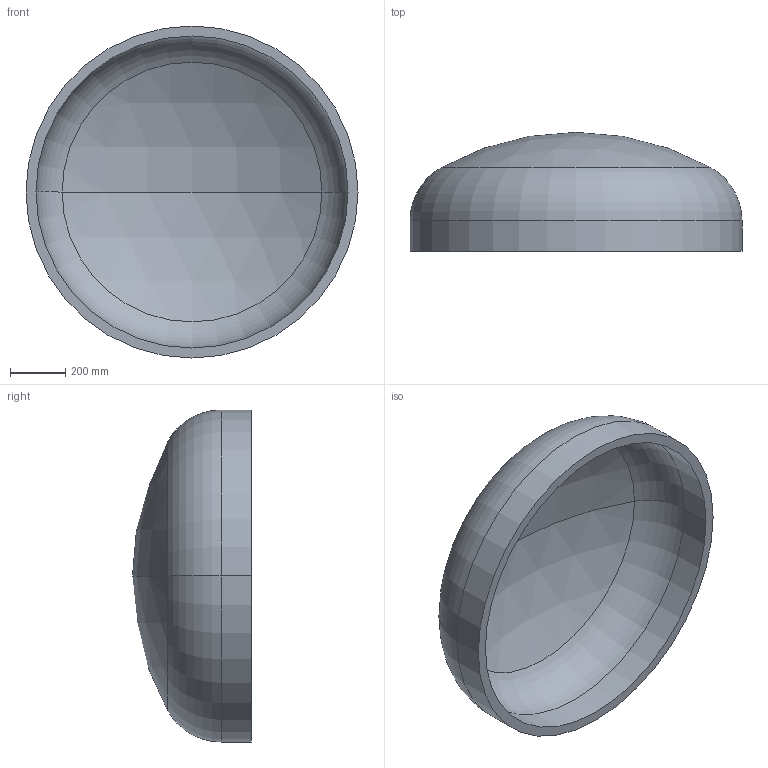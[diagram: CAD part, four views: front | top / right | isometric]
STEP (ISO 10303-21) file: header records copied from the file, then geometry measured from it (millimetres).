
FILE_DESCRIPTION (( 'STEP AP203' ), '1' );
FILE_NAME ('DIN 28013 Korbbogenform_-_Boden DIN 28013 - 1200 x 110 - I - s=36.step', '2016-07-01T09:27:15', ( '' ), ( '' ), 'SwSTEP 2.0', 'SolidWorks 2013', '' );
FILE_SCHEMA (( 'CONFIG_CONTROL_DESIGN' ));
Length unit declared in the file: millimetre
Products named in the file (1): DIN 28013 Korbbogenform_-_Boden DIN 28013 - 1200 x 110 - I - s=36
Bounding box: 1200 x 429.99 x 1200 mm (x, y, z)
Volume: 68715226 mm3; surface area: 3951871.1 mm2
Topology: 1 solids, 1 shells, 13 faces, 24 edges, 14 vertices
Faces by surface type: torus 4, cylinder 4, sphere 4, plane 1
Entity records: 407 total; most frequent: DIRECTION 72, CARTESIAN_POINT 52, ORIENTED_EDGE 48, AXIS2_PLACEMENT_3D 34, EDGE_CURVE 24, CIRCLE 20, VERTEX_POINT 14, EDGE_LOOP 14
